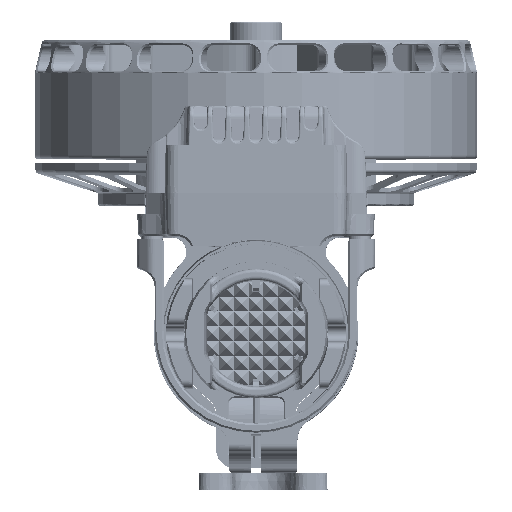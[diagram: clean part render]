
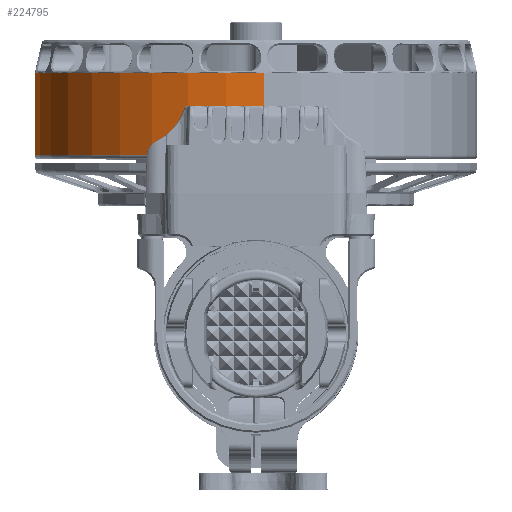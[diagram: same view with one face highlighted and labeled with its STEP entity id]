
A CAD part, top view. The second image highlights one B-rep face of the part: STEP entity #224795.
In plain terms, the highlighted cylindrical face has radius 60.05 mm (diameter 120.1 mm), a partial arc.
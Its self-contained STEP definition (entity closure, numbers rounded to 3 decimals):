
#38828=CARTESIAN_POINT('',(0.,70.5,51.));
#38829=DIRECTION('',(0.,1.,0.));
#38830=DIRECTION('',(-0.037,0.,-0.999));
#38831=AXIS2_PLACEMENT_3D('',#38828,#38829,#38830);
#43560=DIRECTION('',(0.,-1.,0.));
#43561=VECTOR('',#43560,22.3);
#43562=CARTESIAN_POINT('',(2.197,70.5,111.01));
#43563=LINE('',#43562,#43561);
#43567=DIRECTION('',(0.,1.,0.));
#43568=VECTOR('',#43567,22.3);
#43569=CARTESIAN_POINT('',(-2.197,48.2,-9.01));
#43570=LINE('',#43569,#43568);
#43598=CARTESIAN_POINT('',(0.,48.2,51.));
#43599=DIRECTION('',(0.,-1.,0.));
#43600=DIRECTION('',(0.037,0.,0.999));
#43601=AXIS2_PLACEMENT_3D('',#43598,#43599,#43600);
#169867=CARTESIAN_POINT('',(-2.197,70.5,-9.01));
#169868=VERTEX_POINT('',#169867);
#170155=CARTESIAN_POINT('',(2.197,70.5,111.01));
#170156=VERTEX_POINT('',#170155);
#171299=CARTESIAN_POINT('',(2.197,48.2,111.01));
#171301=VERTEX_POINT('',#171299);
#171307=CARTESIAN_POINT('',(-2.197,48.2,-9.01));
#171309=VERTEX_POINT('',#171307);
#224781=CARTESIAN_POINT('',(0.,34.87,51.));
#224782=DIRECTION('',(0.,-1.,0.));
#224783=DIRECTION('',(0.037,0.,0.999));
#224784=AXIS2_PLACEMENT_3D('',#224781,#224782,#224783);
#224785=CYLINDRICAL_SURFACE('',#224784,60.05);
#224787=ORIENTED_EDGE('',*,*,#224786,.T.);
#224789=ORIENTED_EDGE('',*,*,#224788,.T.);
#224791=ORIENTED_EDGE('',*,*,#224790,.T.);
#224792=ORIENTED_EDGE('',*,*,#221613,.T.);
#224793=EDGE_LOOP('',(#224787,#224789,#224791,#224792));
#224794=FACE_OUTER_BOUND('',#224793,.F.);
#38832=CIRCLE('',#38831,60.05);
#43602=CIRCLE('',#43601,60.05);
#221613=EDGE_CURVE('',#169868,#170156,#38832,.T.);
#224786=EDGE_CURVE('',#170156,#171301,#43563,.T.);
#224788=EDGE_CURVE('',#171301,#171309,#43602,.T.);
#224790=EDGE_CURVE('',#171309,#169868,#43570,.T.);
#224795=ADVANCED_FACE('',(#224794),#224785,.T.);
